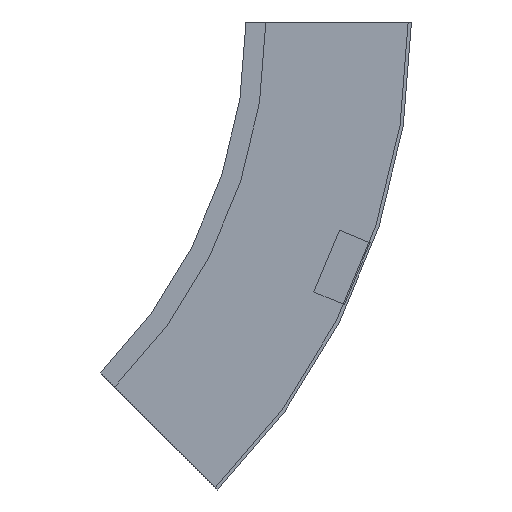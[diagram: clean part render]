
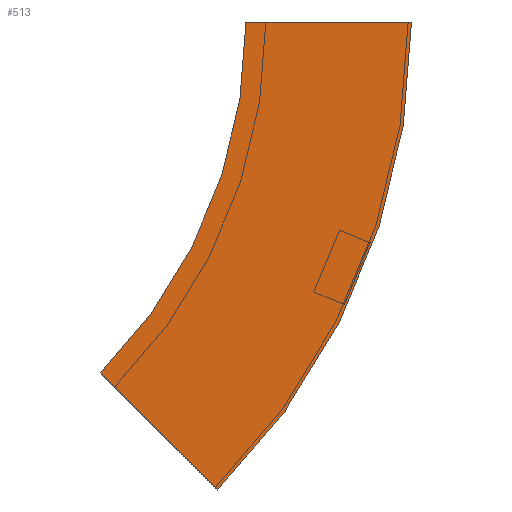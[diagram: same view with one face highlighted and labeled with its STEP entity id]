
A CAD part, left-side view. The second image highlights one B-rep face of the part: STEP entity #513.
In plain terms, the highlighted planar face has unit normal (-1, 0, 0) as drawn and (1, 0, 0) by its records, which use the part's own axes.
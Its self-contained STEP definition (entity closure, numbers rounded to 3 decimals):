
#20 = DIRECTION ( 'NONE',  ( 0., 0., 1. ) ) ;
#23 = LINE ( 'NONE', #164, #355 ) ;
#35 = EDGE_CURVE ( 'NONE', #100, #84, #459, .T. ) ;
#51 = VERTEX_POINT ( 'NONE', #210 ) ;
#66 = DIRECTION ( 'NONE',  ( 0., -1., 0. ) ) ;
#68 = CARTESIAN_POINT ( 'NONE',  ( 0., 300., 0. ) ) ;
#84 = VERTEX_POINT ( 'NONE', #489 ) ;
#100 = VERTEX_POINT ( 'NONE', #455 ) ;
#107 = DIRECTION ( 'NONE',  ( 1., 0., 0. ) ) ;
#109 = AXIS2_PLACEMENT_3D ( 'NONE', #68, #107, #119 ) ;
#119 = DIRECTION ( 'NONE',  ( 0., -1., 0. ) ) ;
#144 = CIRCLE ( 'NONE', #401, 300. ) ;
#148 = DIRECTION ( 'NONE',  ( 0., 1., 0. ) ) ;
#164 = CARTESIAN_POINT ( 'NONE',  ( 0., 17.157, -282.843 ) ) ;
#187 = EDGE_CURVE ( 'NONE', #84, #51, #144, .T. ) ;
#210 = CARTESIAN_POINT ( 'NONE',  ( 0., 87.868, -212.132 ) ) ;
#211 = CARTESIAN_POINT ( 'NONE',  ( 0., 300., 0. ) ) ;
#213 = DIRECTION ( 'NONE',  ( 0., 0.707, 0.707 ) ) ;
#298 = PLANE ( 'NONE',  #521 ) ;
#303 = VERTEX_POINT ( 'NONE', #450 ) ;
#338 = CIRCLE ( 'NONE', #109, 400. ) ;
#339 = ORIENTED_EDGE ( 'NONE', *, *, #502, .T. ) ;
#342 = ORIENTED_EDGE ( 'NONE', *, *, #488, .T. ) ;
#355 = VECTOR ( 'NONE', #213, 1000. ) ;
#376 = FACE_OUTER_BOUND ( 'NONE', #532, .T. ) ;
#377 = CARTESIAN_POINT ( 'NONE',  ( 0., -100., 0. ) ) ;
#383 = DIRECTION ( 'NONE',  ( 1., 0., 0. ) ) ;
#401 = AXIS2_PLACEMENT_3D ( 'NONE', #211, #383, #66 ) ;
#419 = VECTOR ( 'NONE', #148, 1000. ) ;
#439 = ORIENTED_EDGE ( 'NONE', *, *, #187, .F. ) ;
#450 = CARTESIAN_POINT ( 'NONE',  ( 0., 17.157, -282.843 ) ) ;
#455 = CARTESIAN_POINT ( 'NONE',  ( 0., -100., 0. ) ) ;
#459 = LINE ( 'NONE', #377, #419 ) ;
#466 = CARTESIAN_POINT ( 'NONE',  ( 0., -100., 0. ) ) ;
#488 = EDGE_CURVE ( 'NONE', #303, #51, #23, .T. ) ;
#489 = CARTESIAN_POINT ( 'NONE',  ( 0., 0., 0. ) ) ;
#502 = EDGE_CURVE ( 'NONE', #100, #303, #338, .T. ) ;
#513 = ADVANCED_FACE ( 'NONE', ( #376 ), #298, .F. ) ;
#521 = AXIS2_PLACEMENT_3D ( 'NONE', #466, #555, #20 ) ;
#524 = ORIENTED_EDGE ( 'NONE', *, *, #35, .F. ) ;
#532 = EDGE_LOOP ( 'NONE', ( #439, #524, #339, #342 ) ) ;
#555 = DIRECTION ( 'NONE',  ( -1., 0., 0. ) ) ;
